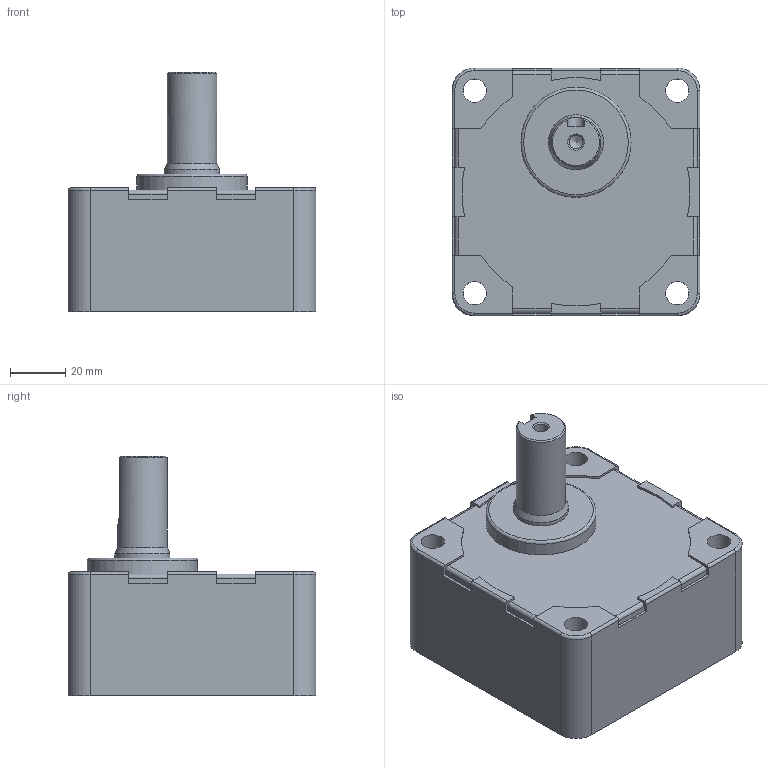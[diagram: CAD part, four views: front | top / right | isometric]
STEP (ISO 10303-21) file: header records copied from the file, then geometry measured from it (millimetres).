
FILE_DESCRIPTION(/* description */ (''),/* implementation_level */ '2;1');
FILE_NAME(/* name */ 'E:\도면작업\2016\0704) 미주향 SG 도면\3D GEAR HEAD\SG9KB5~20.stp',/* time_stamp */ '2016-07-22T14:04:39+09:00',/* author */ ('jy-jung'),/* organization */ (''),/* preprocessor_version */ 'ST-DEVELOPER v15.6',/* originating_system */ 'Autodesk Inventor 2015',/* authorisation */ '');
FILE_SCHEMA (('AUTOMOTIVE_DESIGN { 1 0 10303 214 3 1 1 }'));
Length unit declared in the file: millimetre
Products named in the file (1): SG9KB5~20
Bounding box: 90 x 90 x 87 mm (x, y, z)
Volume: 347400.7 mm3; surface area: 40214.1 mm2
Topology: 1 solids, 1 shells, 106 faces, 285 edges, 185 vertices
Faces by surface type: plane 53, cylinder 42, cone 6, torus 5
Full cylindrical faces by diameter (mm): 4.917 x1, 8.5 x4, 9 x1, 18 x1, 20 x1, 40 x1, 83 x1
Entity records: 3284 total; most frequent: CARTESIAN_POINT 581, DIRECTION 570, ORIENTED_EDGE 536, EDGE_CURVE 268, AXIS2_PLACEMENT_3D 199, VERTEX_POINT 184, LINE 172, VECTOR 172
